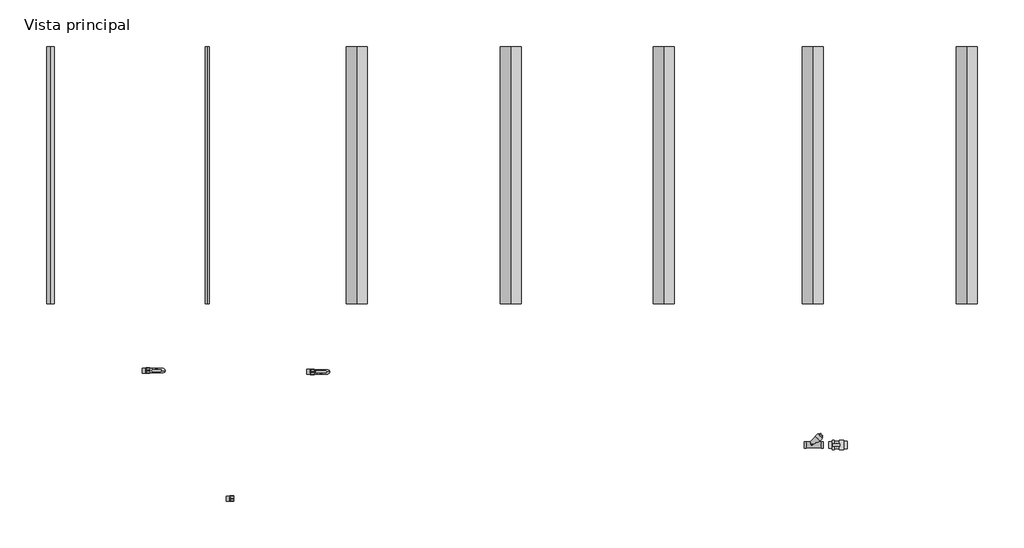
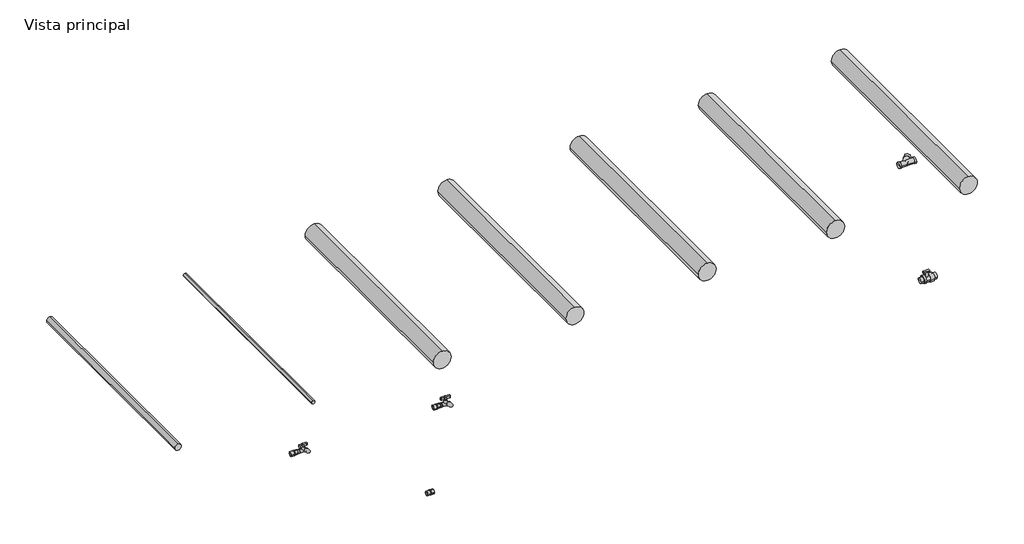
# One storey, incomplete: 7 pipe fittings, 7 pipe segments.
"""IFC4 building model written with IfcOpenShell, lengths in millimetres."""

from ifc_helpers import new_model, si_unit, point, frame, frame_2d, origin, place, context, project, spatial, circle_curve, trimmed, segment, composite_curve, outline, extrude, transform, mapped, element, save
from components import familia1_21bbc39e, familia1_964c2ff3, var_e75e8eaf, var_a0032983, var_27d4b7e6

model = new_model("IFC4")

# Units and contexts
model_context = context("Model", 3, world=origin())
ifc_project = project(units=[si_unit("LENGTHUNIT", "METRE", prefix="MILLI")], contexts=[model_context])

# Site, building, storey
site = spatial("IfcSite", under=ifc_project)
building = spatial("IfcBuilding", under=site)
storey = spatial("IfcBuildingStorey", under=building, Name="Vista principal", Elevation=0.0)

# Pipe fittings
placement = place(None, origin())
familia1_shape = familia1_21bbc39e(model_context)
element("IfcPipeFitting", 1, ObjectType="AmancoWavin_Unionesdetubería_AguaPotableZNoUsarMulticonectorTanque : Familia1", at=placement, inside=storey, context=model_context, shape_type="MappedRepresentation", body=[
    mapped(familia1_shape, transform((4505.3853744, -275.6836244, 94.0), x_axis=(-1.0, 0.0, 0.0), y_axis=(0.0, -1.0, 0.0), z_axis=(0.0, 0.0, 1.0))),
])
familia1_2_shape = familia1_964c2ff3(model_context)
element("IfcPipeFitting", 2, ObjectType="AmancoWavin_Unionesdetubería_AguaPotableZNoUsarFiltroTanque : Familia1", at=placement, inside=storey, context=model_context, shape_type="MappedRepresentation", body=[
    mapped(familia1_2_shape, transform((4365.3853744, -275.6836244, 910.65), x_axis=(1.0, 0.0, 0.0), y_axis=(0.0, 1.0, 0.0), z_axis=(0.0, 0.0, 1.0))),
])
var_shape = var_e75e8eaf(model_context)
element("IfcPipeFitting", 3, ObjectType="AmancoWavin_Unionesdetubería_AguaPotableLlavedeChorroBRPesada : Var.", at=placement, inside=storey, context=model_context, shape_type="MappedRepresentation", body=[
    mapped(var_shape, transform((1642.7915352, 122.5753801, 0.0), x_axis=(1.0, 0.0, 0.0), y_axis=(0.0, 1.0, 0.0), z_axis=(0.0, 0.0, 1.0))),
])
var_2_shape = var_a0032983(model_context)
element("IfcPipeFitting", 4, ObjectType="AmancoWavin_Unionesdetubería_AguaPotableLlavedeChorroBRLiviana : Var.", at=placement, inside=storey, context=model_context, shape_type="MappedRepresentation", body=[
    mapped(var_2_shape, transform((746.4507844, 129.6982471, 0.0), x_axis=(1.0, 0.0, 0.0), y_axis=(0.0, 1.0, 0.0), z_axis=(0.0, 0.0, 1.0))),
])
var_3_shape = var_27d4b7e6(model_context)
element("IfcPipeFitting", 5, ObjectType="AmancoWavin_Unionesdetubería_AguaPotableZNoUsarAdaptadorHembra : Var.", at=placement, inside=storey, context=model_context, shape_type="MappedRepresentation", body=[
    mapped(var_3_shape, transform((742.3157844, 129.6982471, 0.0), x_axis=(1.0, 0.0, 0.0), y_axis=(0.0, 1.0, 0.0), z_axis=(0.0, 0.0, 1.0))),
])
element("IfcPipeFitting", 6, ObjectType="AmancoWavin_Unionesdetubería_AguaPotableZNoUsarAdaptadorHembra : Var.", at=placement, inside=storey, context=model_context, shape_type="MappedRepresentation", body=[
    mapped(var_3_shape, transform((1638.6565352, 122.5753801, 0.0), x_axis=(1.0, 0.0, 0.0), y_axis=(0.0, 1.0, 0.0), z_axis=(0.0, 0.0, 1.0))),
])
element("IfcPipeFitting", 7, ObjectType="AmancoWavin_Unionesdetubería_AguaPotableZNoUsarAdaptadorHembra : Var.", at=placement, inside=storey, context=model_context, shape_type="MappedRepresentation", body=[
    mapped(var_3_shape, transform((1199.8228041, -567.9164726, 0.0), x_axis=(1.0, 0.0, 0.0), y_axis=(0.0, 1.0, 0.0), z_axis=(0.0, 0.0, 1.0))),
])

# Pipe segments
element("IfcPipeSegment", 8, ObjectType="AmancoWavin_Tuberias_AguaPotablePVC_SDR13.5", at=placement, inside=storey, context=model_context, shape_type="SweptSolid", body=[
    extrude(outline(composite_curve([segment(trimmed(circle_curve(frame_2d((1.0, 1075.6610232)), 10.715625), [point((1.0, 1064.9453982))], [point((-9.715625, 1075.6610232))], False, "CARTESIAN"), True, "CONTINUOUS"), segment(trimmed(circle_curve(frame_2d((1.0, 1075.6610232)), 10.715625), [point((-9.715625, 1075.6610232))], [point((1.0, 1086.3766482))], False, "CARTESIAN"), True, "CONTINUOUS"), segment(trimmed(circle_curve(frame_2d((1.0, 1075.6610232)), 10.715625), [point((1.0, 1086.3766482))], [point((11.715625, 1075.6610232))], False, "CARTESIAN"), True, "CONTINUOUS"), segment(trimmed(circle_curve(frame_2d((1.0, 1075.6610232)), 10.715625), [point((11.715625, 1075.6610232))], [point((1.0, 1064.9453982))], False, "CARTESIAN"), True, "CONTINUOUS")], self_intersect=False)), frame((0.0, 494.6112234, 0.0), z_axis=(0.0, 1.0, 0.0), x_axis=(0.0, 0.0, 1.0)), (0.0, 0.0, 1.0), 1400.0),
])
element("IfcPipeSegment", 9, ObjectType="AmancoWavin_Tuberias_AguaPotablePVC_SDR26", at=placement, inside=storey, context=model_context, shape_type="SweptSolid", body=[
    extrude(outline(composite_curve([segment(trimmed(circle_curve(frame_2d((1.0, 2728.9653259)), 57.15), [point((1.0, 2671.8153259))], [point((-56.15, 2728.9653259))], False, "CARTESIAN"), True, "CONTINUOUS"), segment(trimmed(circle_curve(frame_2d((1.0, 2728.9653259)), 57.15), [point((-56.15, 2728.9653259))], [point((1.0, 2786.1153259))], False, "CARTESIAN"), True, "CONTINUOUS"), segment(trimmed(circle_curve(frame_2d((1.0, 2728.9653259)), 57.15), [point((1.0, 2786.1153259))], [point((58.15, 2728.9653259))], False, "CARTESIAN"), True, "CONTINUOUS"), segment(trimmed(circle_curve(frame_2d((1.0, 2728.9653259)), 57.15), [point((58.15, 2728.9653259))], [point((1.0, 2671.8153259))], False, "CARTESIAN"), True, "CONTINUOUS")], self_intersect=False)), frame((0.0, 494.6112234, 0.0), z_axis=(0.0, 1.0, 0.0), x_axis=(0.0, 0.0, 1.0)), (0.0, 0.0, 1.0), 1400.0),
])
element("IfcPipeSegment", 10, ObjectType="AmancoWavin_Tuberias_AguaPotablePVC_SDR17", at=placement, inside=storey, context=model_context, shape_type="SweptSolid", body=[
    extrude(outline(composite_curve([segment(trimmed(circle_curve(frame_2d((0.0, 1890.2295206)), 57.15), [point((0.0, 1833.0795206))], [point((-57.15, 1890.2295206))], False, "CARTESIAN"), True, "CONTINUOUS"), segment(trimmed(circle_curve(frame_2d((0.0, 1890.2295206)), 57.15), [point((-57.15, 1890.2295206))], [point((0.0, 1947.3795206))], False, "CARTESIAN"), True, "CONTINUOUS"), segment(trimmed(circle_curve(frame_2d((0.0, 1890.2295206)), 57.15), [point((0.0, 1947.3795206))], [point((57.15, 1890.2295206))], False, "CARTESIAN"), True, "CONTINUOUS"), segment(trimmed(circle_curve(frame_2d((0.0, 1890.2295206)), 57.15), [point((57.15, 1890.2295206))], [point((0.0, 1833.0795206))], False, "CARTESIAN"), True, "CONTINUOUS")], self_intersect=False)), frame((0.0, 494.6112234, 0.0), z_axis=(0.0, 1.0, 0.0), x_axis=(0.0, 0.0, 1.0)), (0.0, 0.0, 1.0), 1400.0),
])
element("IfcPipeSegment", 11, ObjectType="AmancoWavin_Tuberias_AguaPotablePVC_SDR32.5", at=placement, inside=storey, context=model_context, shape_type="SweptSolid", body=[
    extrude(outline(composite_curve([segment(trimmed(circle_curve(frame_2d((1.0, 3563.7185034)), 57.15), [point((1.0, 3506.5685034))], [point((-56.15, 3563.7185034))], False, "CARTESIAN"), True, "CONTINUOUS"), segment(trimmed(circle_curve(frame_2d((1.0, 3563.7185034)), 57.15), [point((-56.15, 3563.7185034))], [point((1.0, 3620.8685034))], False, "CARTESIAN"), True, "CONTINUOUS"), segment(trimmed(circle_curve(frame_2d((1.0, 3563.7185034)), 57.15), [point((1.0, 3620.8685034))], [point((58.15, 3563.7185034))], False, "CARTESIAN"), True, "CONTINUOUS"), segment(trimmed(circle_curve(frame_2d((1.0, 3563.7185034)), 57.15), [point((58.15, 3563.7185034))], [point((1.0, 3506.5685034))], False, "CARTESIAN"), True, "CONTINUOUS")], self_intersect=False)), frame((0.0, 494.6112234, 0.0), z_axis=(0.0, 1.0, 0.0), x_axis=(0.0, 0.0, 1.0)), (0.0, 0.0, 1.0), 1400.0),
])
element("IfcPipeSegment", 12, ObjectType="AmancoWavin_Tuberias_AguaPotablePVC_SDR41", at=placement, inside=storey, context=model_context, shape_type="SweptSolid", body=[
    extrude(outline(composite_curve([segment(trimmed(circle_curve(frame_2d((1.0, 4374.5628839)), 57.15), [point((1.0, 4317.4128839))], [point((-56.15, 4374.5628839))], False, "CARTESIAN"), True, "CONTINUOUS"), segment(trimmed(circle_curve(frame_2d((1.0, 4374.5628839)), 57.15), [point((-56.15, 4374.5628839))], [point((1.0, 4431.7128839))], False, "CARTESIAN"), True, "CONTINUOUS"), segment(trimmed(circle_curve(frame_2d((1.0, 4374.5628839)), 57.15), [point((1.0, 4431.7128839))], [point((58.15, 4374.5628839))], False, "CARTESIAN"), True, "CONTINUOUS"), segment(trimmed(circle_curve(frame_2d((1.0, 4374.5628839)), 57.15), [point((58.15, 4374.5628839))], [point((1.0, 4317.4128839))], False, "CARTESIAN"), True, "CONTINUOUS")], self_intersect=False)), frame((0.0, 494.6112234, 0.0), z_axis=(0.0, 1.0, 0.0), x_axis=(0.0, 0.0, 1.0)), (0.0, 0.0, 1.0), 1400.0),
])
element("IfcPipeSegment", 13, ObjectType="AmancoWavin_Tuberias_AguaPotablePVC_SDR51", at=placement, inside=storey, context=model_context, shape_type="SweptSolid", body=[
    extrude(outline(composite_curve([segment(trimmed(circle_curve(frame_2d((1.0, 5213.9733574)), 57.15), [point((1.0, 5156.8233574))], [point((-56.15, 5213.9733574))], False, "CARTESIAN"), True, "CONTINUOUS"), segment(trimmed(circle_curve(frame_2d((1.0, 5213.9733574)), 57.15), [point((-56.15, 5213.9733574))], [point((1.0, 5271.1233574))], False, "CARTESIAN"), True, "CONTINUOUS"), segment(trimmed(circle_curve(frame_2d((1.0, 5213.9733574)), 57.15), [point((1.0, 5271.1233574))], [point((58.15, 5213.9733574))], False, "CARTESIAN"), True, "CONTINUOUS"), segment(trimmed(circle_curve(frame_2d((1.0, 5213.9733574)), 57.15), [point((58.15, 5213.9733574))], [point((1.0, 5156.8233574))], False, "CARTESIAN"), True, "CONTINUOUS")], self_intersect=False)), frame((0.0, 494.6112234, 0.0), z_axis=(0.0, 1.0, 0.0), x_axis=(0.0, 0.0, 1.0)), (0.0, 0.0, 1.0), 1400.0),
])
element("IfcPipeSegment", 14, ObjectType="AmancoWavin_Tuberias_AguaPotablePVC_SCH40", at=placement, inside=storey, context=model_context, shape_type="SweptSolid", body=[
    extrude(outline(composite_curve([segment(trimmed(circle_curve(frame_2d((1.0, 221.730407)), 21.0345), [point((1.0, 200.695907))], [point((-20.0345, 221.730407))], False, "CARTESIAN"), True, "CONTINUOUS"), segment(trimmed(circle_curve(frame_2d((1.0, 221.730407)), 21.0345), [point((-20.0345, 221.730407))], [point((1.0, 242.764907))], False, "CARTESIAN"), True, "CONTINUOUS"), segment(trimmed(circle_curve(frame_2d((1.0, 221.730407)), 21.0345), [point((1.0, 242.764907))], [point((22.0345, 221.730407))], False, "CARTESIAN"), True, "CONTINUOUS"), segment(trimmed(circle_curve(frame_2d((1.0, 221.730407)), 21.0345), [point((22.0345, 221.730407))], [point((1.0, 200.695907))], False, "CARTESIAN"), True, "CONTINUOUS")], self_intersect=False)), frame((0.0, 494.6112234, 0.0), z_axis=(0.0, 1.0, 0.0), x_axis=(0.0, 0.0, 1.0)), (0.0, 0.0, 1.0), 1400.0),
])

save(model, "model.ifc")
